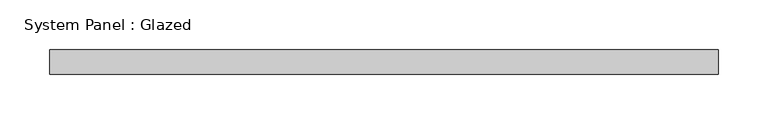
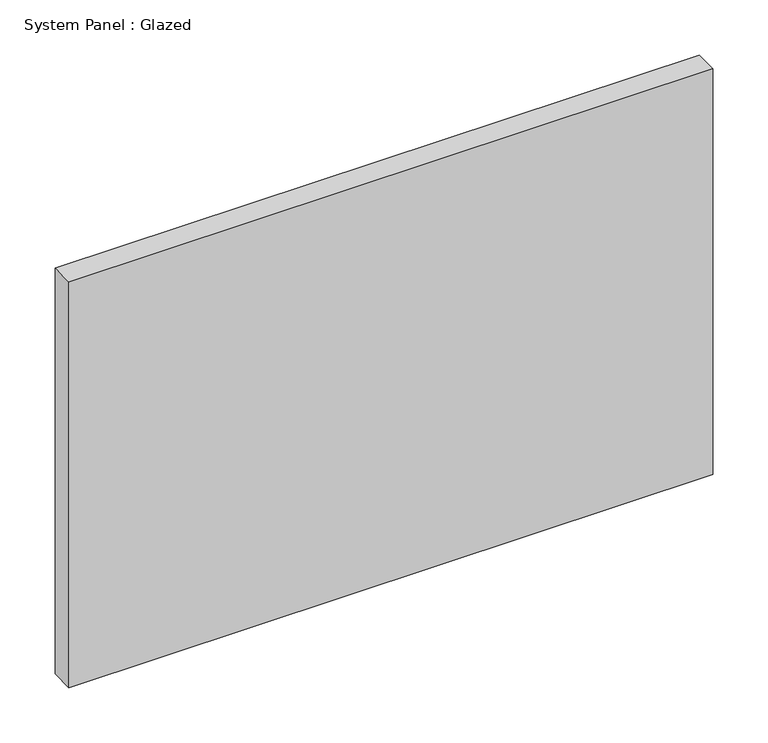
"""IFC4 building model written with IfcOpenShell, lengths in millimetres: plate geometry, System Panel : Glazed."""

from ifc_helpers import new_model, si_unit, origin, origin_with_axes, place, context, project, spatial, polyline, outline, extrude, source, transform, mapped, element, save


def system_panel_glazed_96a5b588(model_context):
    return source(origin(), model_context, "Body", "SweptSolid", [
        extrude(outline(polyline([(337.4999999, -49.5), (-337.4999999, -49.5), (-337.4999999, -24.5), (337.4999999, -24.5), (337.4999999, -49.5)])), origin_with_axes(), (0.0, 0.0, 1.0), 450.0),
    ])


if __name__ == "__main__":
    model = new_model("IFC4")
    model_context = context("Model", 3, world=origin())
    ifc_project = project(units=[si_unit("LENGTHUNIT", "METRE", prefix="MILLI")], contexts=[model_context])
    site = spatial("IfcSite", under=ifc_project)
    building = spatial("IfcBuilding", under=site)
    placement = place(None, origin())
    system_panel_glazed_shape = system_panel_glazed_96a5b588(model_context)
    element("IfcPlate", 1, ObjectType="System Panel : Glazed", at=placement, inside=building, context=model_context, shape_type="MappedRepresentation", body=[
        mapped(system_panel_glazed_shape, transform((0.0, 0.0, 0.0), x_axis=(1.0, 0.0, 0.0), y_axis=(0.0, 1.0, 0.0), z_axis=(0.0, 0.0, 1.0))),
    ])
    save(model, "model.ifc")
